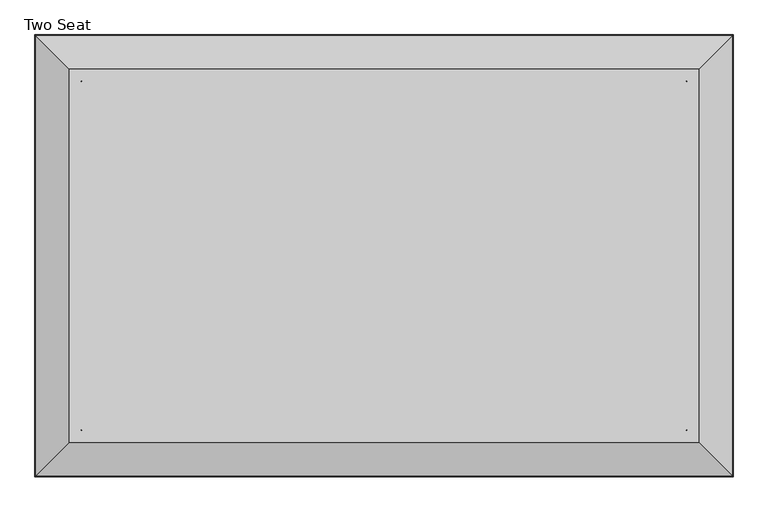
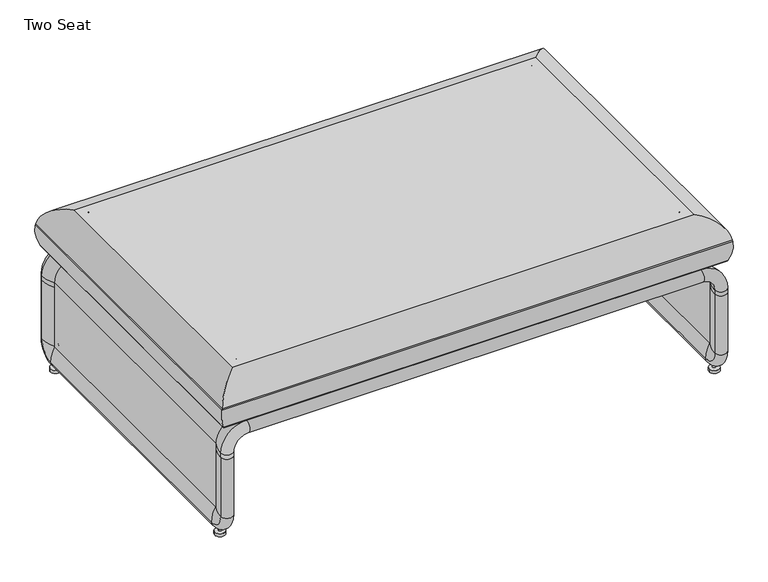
"""IFC4 building model written with IfcOpenShell, lengths in millimetres: furniture geometry, Coalesse_AM_Seating_LoungeChair_Lagunitas_Bench : Two Seat."""

from ifc_helpers import new_model, si_unit, point, frame, frame_2d, origin, origin_with_axes, place, context, project, spatial, polyline, circle_curve, ellipse_curve, trimmed, segment, composite_curve, outline, extrude, source, transform, mapped, element, save
from ifc_brep_helpers import plane_surface, cylinder_surface, revolved_surface, advanced_brep


def two_seat_4937a690(model_context):
    return source(origin(), model_context, "Body", "SolidModel", [
        advanced_brep(
        [(-224.9192902, 331.7027048, 308.3159554), (-224.9192902, 331.7027048, 423.1505158), (-225.6812902, 331.7027048, 423.1505158), (-225.6812902, 331.7027048, 308.3159554), (-1352.2104971, 331.7027048, 423.1505158), (-1352.2104971, 331.7027048, 308.3159554), (-1351.4484971, 331.7027048, 308.3159554), (-1351.4484971, 331.7027048, 423.1505158), (-147.0411935, 409.5808014, 313.8220641), (-155.4245766, 401.1974183, 308.3159554), (-1421.7052106, 401.1974183, 308.3159554), (-1430.0885937, 409.5808014, 313.8220641), (-1437.7967459, 417.2889536, 366.6638866), (-139.3330414, 417.2889536, 366.6638866), (-1437.3399768, 416.8321845, 370.0179265), (-139.7898105, 416.8321845, 370.0179265), (-1375.456588, 354.9487957, 423.1505158), (-201.6731992, 354.9487957, 423.1505158), (-1352.2104971, 330.9407048, 423.1505158), (-1352.2104971, 330.9407048, 308.3159554), (-1352.2104971, -319.1854727, 423.1505158), (-1352.2104971, -319.1854727, 308.3159554), (-1352.2104971, -318.4234727, 308.3159554), (-1352.2104971, -318.4234727, 423.1505158), (-1421.7052106, -388.6801863, 308.3159554), (-1430.0885937, -397.0635693, 313.8220641), (-1437.7967459, -404.7717215, 366.6638866), (-1437.3399768, -404.3149524, 370.0179265), (-1375.456588, -342.4315637, 423.1505158), (-1351.4484971, -319.1854727, 423.1505158), (-1351.4484971, -319.1854727, 308.3159554), (-224.9192902, -319.1854727, 423.1505158), (-224.9192902, -319.1854727, 308.3159554), (-225.6812902, -319.1854727, 308.3159554), (-225.6812902, -319.1854727, 423.1505158), (-155.4245766, -388.6801863, 308.3159554), (-147.0411935, -397.0635693, 313.8220641), (-139.3330414, -404.7717215, 366.6638866), (-139.7898105, -404.3149524, 370.0179265), (-201.6731992, -342.4315637, 423.1505158), (-224.9192902, 330.9407048, 308.3159554), (-224.9192902, 330.9407048, 423.1505158), (-224.9192902, -318.4234727, 423.1505158), (-224.9192902, -318.4234727, 308.3159554)],
        [
            (0, 1),
            (1, 2),
            (2, 3),
            (3, 0),
            (4, 5),
            (5, 6),
            (6, 7),
            (7, 4),
            (8, 9, ellipse_curve(frame((-155.4245766, 401.1974183, 317.4511134), z_axis=(-0.7071067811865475, 0.7071067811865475, 0.0), x_axis=(0.7071067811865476, 0.7071067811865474, 0.0)), 12.9190643, 9.135158)),
            (9, 10),
            (10, 11, ellipse_curve(frame((-1421.7052106, 401.1974183, 317.4511134), z_axis=(0.7071067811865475, 0.7071067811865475, 0.0), x_axis=(0.7071067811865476, -0.7071067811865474, 0.0)), 12.9190643, 9.135158)),
            (11, 8),
            (11, 12, ellipse_curve(frame((-1336.0753091, 315.5675168, 354.5191011), z_axis=(0.7071067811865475, 0.7071067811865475, 0.0), x_axis=(0.7071067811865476, -0.7071067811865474, 0.0)), 144.8775104, 102.44387)),
            (12, 13),
            (13, 8, ellipse_curve(frame((-241.0544781, 315.5675168, 354.5191011), z_axis=(-0.7071067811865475, 0.7071067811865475, 0.0), x_axis=(0.7071067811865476, 0.7071067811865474, 0.0)), 144.8775104, 102.44387)),
            (12, 14, ellipse_curve(frame((-1336.0753091, 315.5675168, 354.5191011), z_axis=(0.7071067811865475, 0.7071067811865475, 0.0), x_axis=(0.7071067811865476, -0.7071067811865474, 0.0)), 144.8775104, 102.44387)),
            (14, 15),
            (15, 13, ellipse_curve(frame((-241.0544781, 315.5675168, 354.5191011), z_axis=(-0.7071067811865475, 0.7071067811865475, 0.0), x_axis=(0.7071067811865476, 0.7071067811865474, 0.0)), 144.8775104, 102.44387)),
            (14, 16, ellipse_curve(frame((-1375.456588, 354.9487957, 360.5465101), z_axis=(0.7071067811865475, 0.7071067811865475, 0.0), x_axis=(0.7071067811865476, -0.7071067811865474, 0.0)), 88.535434, 62.6040057)),
            (16, 17),
            (17, 15, ellipse_curve(frame((-201.6731992, 354.9487957, 360.5465101), z_axis=(-0.7071067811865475, 0.7071067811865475, 0.0), x_axis=(0.7071067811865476, 0.7071067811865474, 0.0)), 88.535434, 62.6040057)),
            (4, 18),
            (18, 19),
            (19, 5),
            (20, 21),
            (21, 22),
            (22, 23),
            (23, 20),
            (10, 24),
            (24, 25, ellipse_curve(frame((-1421.7052106, -388.6801863, 317.4511134), z_axis=(-0.7071067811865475, 0.7071067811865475, 0.0), x_axis=(0.7071067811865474, 0.7071067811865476, 0.0)), 12.9190643, 9.135158)),
            (25, 11),
            (25, 26, ellipse_curve(frame((-1336.0753091, -303.0502848, 354.5191011), z_axis=(-0.7071067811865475, 0.7071067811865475, 0.0), x_axis=(0.7071067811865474, 0.7071067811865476, 0.0)), 144.8775104, 102.44387)),
            (26, 12),
            (26, 27, ellipse_curve(frame((-1336.0753091, -303.0502848, 354.5191011), z_axis=(-0.7071067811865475, 0.7071067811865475, 0.0), x_axis=(0.7071067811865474, 0.7071067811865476, 0.0)), 144.8775104, 102.44387)),
            (27, 14),
            (27, 28, ellipse_curve(frame((-1375.456588, -342.4315637, 360.5465101), z_axis=(-0.7071067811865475, 0.7071067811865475, 0.0), x_axis=(0.7071067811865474, 0.7071067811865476, 0.0)), 88.535434, 62.6040057)),
            (28, 16),
            (20, 29),
            (29, 30),
            (30, 21),
            (31, 32),
            (32, 33),
            (33, 34),
            (34, 31),
            (24, 35),
            (35, 36, ellipse_curve(frame((-155.4245766, -388.6801863, 317.4511134), z_axis=(-0.7071067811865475, -0.7071067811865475, 0.0), x_axis=(-0.7071067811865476, 0.7071067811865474, 0.0)), 12.9190643, 9.135158)),
            (36, 25),
            (36, 37, ellipse_curve(frame((-241.0544781, -303.0502848, 354.5191011), z_axis=(-0.7071067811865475, -0.7071067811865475, 0.0), x_axis=(-0.7071067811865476, 0.7071067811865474, 0.0)), 144.8775104, 102.44387)),
            (37, 26),
            (37, 38, ellipse_curve(frame((-241.0544781, -303.0502848, 354.5191011), z_axis=(-0.7071067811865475, -0.7071067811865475, 0.0), x_axis=(-0.7071067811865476, 0.7071067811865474, 0.0)), 144.8775104, 102.44387)),
            (38, 27),
            (38, 39, ellipse_curve(frame((-201.6731992, -342.4315637, 360.5465101), z_axis=(-0.7071067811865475, -0.7071067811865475, 0.0), x_axis=(-0.7071067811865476, 0.7071067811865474, 0.0)), 88.535434, 62.6040057)),
            (39, 28),
            (0, 40),
            (40, 41),
            (41, 1),
            (31, 42),
            (42, 43),
            (43, 32),
            (9, 35),
            (3, 40, circle_curve(frame((-225.6812902, 330.9407048, 308.3159554), z_axis=(0.0, 0.0, -1.0), x_axis=(1.0, 0.0, 0.0)), 0.762)),
            (19, 6, circle_curve(frame((-1351.4484971, 330.9407048, 308.3159554), z_axis=(0.0, 0.0, -1.0), x_axis=(1.0, 0.0, 0.0)), 0.762)),
            (30, 22, circle_curve(frame((-1351.4484971, -318.4234727, 308.3159554), z_axis=(0.0, 0.0, -1.0), x_axis=(1.0, 0.0, 0.0)), 0.762)),
            (43, 33, circle_curve(frame((-225.6812902, -318.4234727, 308.3159554), z_axis=(0.0, 0.0, -1.0), x_axis=(1.0, 0.0, 0.0)), 0.762)),
            (8, 36),
            (13, 37),
            (15, 38),
            (17, 39),
            (7, 18, circle_curve(frame((-1351.4484971, 330.9407048, 423.1505158), z_axis=(0.0, 0.0, 1.0), x_axis=(1.0, 0.0, 0.0)), 0.762)),
            (23, 29, circle_curve(frame((-1351.4484971, -318.4234727, 423.1505158), z_axis=(0.0, 0.0, 1.0), x_axis=(1.0, 0.0, 0.0)), 0.762)),
            (34, 42, circle_curve(frame((-225.6812902, -318.4234727, 423.1505158), z_axis=(0.0, 0.0, 1.0), x_axis=(1.0, 0.0, 0.0)), 0.762)),
            (41, 2, circle_curve(frame((-225.6812902, 330.9407048, 423.1505158), z_axis=(0.0, 0.0, 1.0), x_axis=(1.0, 0.0, 0.0)), 0.762)),
        ],
        [
            plane_surface(frame((-224.9192902, 331.7027048, 423.1505158), z_axis=(0.0, -1.0, 0.0), x_axis=(-1.0, 0.0, 0.0))),
            cylinder_surface(frame((-224.9192902, 401.1974183, 317.4511134), z_axis=(1.0, 0.0, 0.0), x_axis=(0.0, -1.0, 0.0)), 9.135158),
            cylinder_surface(frame((-224.9192902, 315.5675168, 354.5191011), z_axis=(1.0, 0.0, 0.0), x_axis=(0.0, -1.0, 0.0)), 102.44387),
            cylinder_surface(frame((-224.9192902, 354.9487957, 360.5465101), z_axis=(1.0, 0.0, 0.0), x_axis=(0.0, -1.0, 0.0)), 62.6040057),
            plane_surface(frame((-1352.2104971, 331.7027048, 423.1505158), z_axis=(1.0, 0.0, 0.0), x_axis=(0.0, -1.0, 0.0))),
            cylinder_surface(frame((-1421.7052106, 331.7027048, 317.4511134), z_axis=(0.0, 1.0, 0.0), x_axis=(1.0, 0.0, 0.0)), 9.135158),
            cylinder_surface(frame((-1336.0753091, 331.7027048, 354.5191011), z_axis=(0.0, 1.0, 0.0), x_axis=(1.0, 0.0, 0.0)), 102.44387),
            cylinder_surface(frame((-1375.456588, 331.7027048, 360.5465101), z_axis=(0.0, 1.0, 0.0), x_axis=(1.0, 0.0, 0.0)), 62.6040057),
            plane_surface(frame((-1352.2104971, -319.1854727, 423.1505158), z_axis=(0.0, 1.0, 0.0), x_axis=(1.0, 0.0, 0.0))),
            cylinder_surface(frame((-1352.2104971, -388.6801863, 317.4511134), z_axis=(-1.0, 0.0, 0.0), x_axis=(0.0, 1.0, 0.0)), 9.135158),
            cylinder_surface(frame((-1352.2104971, -303.0502848, 354.5191011), z_axis=(-1.0, 0.0, 0.0), x_axis=(0.0, 1.0, 0.0)), 102.44387),
            cylinder_surface(frame((-1352.2104971, -342.4315637, 360.5465101), z_axis=(-1.0, 0.0, 0.0), x_axis=(0.0, 1.0, 0.0)), 62.6040057),
            plane_surface(frame((-224.9192902, -319.1854727, 423.1505158), z_axis=(-1.0, 0.0, 0.0), x_axis=(0.0, 1.0, 0.0))),
            plane_surface(frame((-224.9192902, -319.1854727, 308.3159554), z_axis=(0.0, 0.0, -1.0), x_axis=(0.0, 1.0, 0.0))),
            cylinder_surface(frame((-155.4245766, -319.1854727, 317.4511134), z_axis=(0.0, -1.0, 0.0), x_axis=(-1.0, 0.0, 0.0)), 9.135158),
            cylinder_surface(frame((-241.0544781, -319.1854727, 354.5191011), z_axis=(0.0, -1.0, 0.0), x_axis=(-1.0, 0.0, 0.0)), 102.44387),
            cylinder_surface(frame((-201.6731992, -319.1854727, 360.5465101), z_axis=(0.0, -1.0, 0.0), x_axis=(-1.0, 0.0, 0.0)), 62.6040057),
            plane_surface(frame((-201.6731992, -342.4315637, 423.1505158), z_axis=(0.0, 0.0, 1.0), x_axis=(0.0, 1.0, 0.0))),
            cylinder_surface(frame((-1351.4484971, 330.9407048, 308.3159554), z_axis=(0.0, 0.0, 1.0), x_axis=(1.0, 0.0, 0.0)), 0.762),
            cylinder_surface(frame((-1351.4484971, -318.4234727, 308.3159554), z_axis=(0.0, 0.0, 1.0), x_axis=(1.0, 0.0, 0.0)), 0.762),
            cylinder_surface(frame((-225.6812902, -318.4234727, 308.3159554), z_axis=(0.0, 0.0, 1.0), x_axis=(1.0, 0.0, 0.0)), 0.762),
            cylinder_surface(frame((-225.6812902, 330.9407048, 308.3159554), z_axis=(0.0, 0.0, 1.0), x_axis=(1.0, 0.0, 0.0)), 0.762),
        ],
        [
            (0, [[1, 2, 3, 4]]),
            (0, [[5, 6, 7, 8]]),
            (1, [[9, 10, 11, 12]]),
            (2, [[-12, 13, 14, 15]]),
            (2, [[-14, 16, 17, 18]]),
            (3, [[-17, 19, 20, 21]]),
            (4, [[-5, 22, 23, 24]]),
            (4, [[25, 26, 27, 28]]),
            (5, [[-11, 29, 30, 31]]),
            (6, [[-13, -31, 32, 33]]),
            (6, [[-16, -33, 34, 35]]),
            (7, [[-19, -35, 36, 37]]),
            (8, [[-25, 38, 39, 40]]),
            (8, [[41, 42, 43, 44]]),
            (9, [[-30, 45, 46, 47]]),
            (10, [[-32, -47, 48, 49]]),
            (10, [[-34, -49, 50, 51]]),
            (11, [[-36, -51, 52, 53]]),
            (12, [[-1, 54, 55, 56]]),
            (12, [[-41, 57, 58, 59]]),
            (13, [[-10, 60, -45, -29], [-4, 61, -54], [-24, 62, -6], [-40, 63, -26], [-59, 64, -42]]),
            (14, [[-9, 65, -46, -60]]),
            (15, [[-15, 66, -48, -65]]),
            (15, [[-18, 67, -50, -66]]),
            (16, [[-21, 68, -52, -67]]),
            (17, [[-20, -37, -53, -68], [-8, 69, -22], [-28, 70, -38], [-44, 71, -57], [-56, 72, -2]]),
            (18, [[-69, -7, -62, -23]]),
            (19, [[-70, -27, -63, -39]]),
            (20, [[-71, -43, -64, -58]]),
            (21, [[-72, -55, -61, -3]]),
        ],
    ),
        extrude(outline(composite_curve([segment(trimmed(circle_curve(frame_2d((-159.8424202, -358.9512574)), 13.208), [point((-146.6344202, -358.9512574))], [point((-173.0504202, -358.9512574))], False, "CARTESIAN"), True, "CONTINUOUS"), segment(trimmed(circle_curve(frame_2d((-159.8424202, -358.9512574)), 13.208), [point((-173.0504202, -358.9512574))], [point((-146.6344202, -358.9512574))], False, "CARTESIAN"), True, "CONTINUOUS")], self_intersect=False)), origin_with_axes(), (0.0, 0.0, 1.0), 7.9249983),
        extrude(outline(composite_curve([segment(trimmed(circle_curve(frame_2d((-160.7071271, 366.0094457)), 13.208), [point((-147.4991271, 366.0094457))], [point((-173.9151271, 366.0094457))], False, "CARTESIAN"), True, "CONTINUOUS"), segment(trimmed(circle_curve(frame_2d((-160.7071271, 366.0094457)), 13.208), [point((-173.9151271, 366.0094457))], [point((-147.4991271, 366.0094457))], False, "CARTESIAN"), True, "CONTINUOUS")], self_intersect=False)), origin_with_axes(), (0.0, 0.0, 1.0), 7.9249983),
        extrude(outline(composite_curve([segment(trimmed(circle_curve(frame_2d((-159.9727332, 365.9413212)), 3.8556407), [point((-156.1170925, 365.9413212))], [point((-163.828374, 365.9413212))], False, "CARTESIAN"), True, "CONTINUOUS"), segment(trimmed(circle_curve(frame_2d((-159.9727332, 365.9413212)), 3.8556407), [point((-163.828374, 365.9413212))], [point((-156.1170925, 365.9413212))], False, "CARTESIAN"), True, "CONTINUOUS")], self_intersect=False)), frame((0.0, 0.0, 7.9249983), z_axis=(0.0, 0.0, 1.0), x_axis=(1.0, 0.0, 0.0)), (0.0, 0.0, 1.0), 41.9053919),
        extrude(outline(composite_curve([segment(trimmed(circle_curve(frame_2d((-159.9727332, -357.9586788)), 3.8556407), [point((-156.1170925, -357.9586788))], [point((-163.828374, -357.9586788))], False, "CARTESIAN"), True, "CONTINUOUS"), segment(trimmed(circle_curve(frame_2d((-159.9727332, -357.9586788)), 3.8556407), [point((-163.828374, -357.9586788))], [point((-156.1170925, -357.9586788))], False, "CARTESIAN"), True, "CONTINUOUS")], self_intersect=False)), frame((0.0, 0.0, 7.9249983), z_axis=(0.0, 0.0, 1.0), x_axis=(1.0, 0.0, 0.0)), (0.0, 0.0, 1.0), 41.9053919),
        advanced_brep(
        [(-1364.817987, 361.2223108, 294.5571477), (-1364.817987, -349.3993584, 294.5571477), (-210.8270072, -349.3993584, 294.5571477), (-210.8270072, 361.2223108, 294.5571477), (-210.8270072, 399.3471866, 304.6510848), (-1364.817987, 399.3471866, 304.6510848), (-210.8270072, 399.3471866, 273.9829819), (-1364.817987, 399.3471866, 273.9829819), (-210.8270072, 361.2223108, 284.076919), (-1364.817987, 361.2223108, 284.076919), (-210.8270072, -349.3993584, 284.076919), (-1364.817987, -349.3993584, 284.076919), (-210.8270072, -387.5242343, 273.9829819), (-1364.817987, -387.5242343, 273.9829819), (-210.8270072, -387.5242343, 304.6510848), (-1364.817987, -387.5242343, 304.6510848), (-1421.0182157, -349.3993584, 227.5269902), (-1421.0182157, -349.3993584, 238.356919), (-1421.0182157, 361.2223108, 238.356919), (-1421.0182157, 361.2223108, 227.5269902), (-1421.0182157, 361.2223108, 68.7769902), (-1421.0182157, 359.9523108, 67.5069902), (-1421.0182157, -348.1293584, 67.5069902), (-1421.0182157, -349.3993584, 68.7769902), (-1431.1121528, 399.3471866, 238.356919), (-1431.1121528, 399.3471866, 227.5269902), (-1400.4440499, 399.3471866, 238.356919), (-1400.4440499, 399.3471866, 227.5269902), (-1410.537987, 361.2223108, 238.356919), (-1410.537987, 361.2223108, 227.5269902), (-1410.537987, -349.3993584, 238.356919), (-1410.537987, -349.3993584, 227.5269902), (-1410.537987, -349.3993584, 68.7769902), (-1410.537987, -348.1293832, 67.5069902), (-1410.537987, 359.9523108, 67.5069902), (-1410.537987, 361.2223108, 68.7769646), (-1400.4440499, -387.5242343, 238.356919), (-1400.4440499, -387.5242343, 227.5269902), (-1431.1121528, -387.5242343, 238.356919), (-1431.1121528, -387.5242343, 227.5269902), (-1400.4440499, -387.5242343, 68.7769902), (-1431.1121528, -387.5242343, 68.7769902), (-1400.4440499, -348.1293584, 29.3821143), (-1431.1121528, -348.1293584, 29.3821143), (-1400.4440499, 359.9523108, 29.3821143), (-1431.1121528, 359.9523108, 29.3821143), (-1400.4440499, 399.3471866, 68.7769902), (-1431.1121528, 399.3471866, 68.7769902), (-154.6267784, -349.3993584, 238.356919), (-154.6267784, 361.2223108, 238.356919), (-144.5328414, 399.3471866, 238.356919), (-175.2009443, 399.3471866, 238.356919), (-165.1070072, 361.2223108, 238.356919), (-165.1070072, -349.3993584, 238.356919), (-175.2009443, -387.5242343, 238.356919), (-144.5328414, -387.5242343, 238.356919), (-154.6267784, -349.3993584, 227.5269902), (-154.6267784, -349.3993584, 68.7769902), (-154.6267784, -348.1293584, 67.5069902), (-154.6267784, 359.9523108, 67.5069902), (-154.6267784, 361.2223108, 68.7769902), (-154.6267784, 361.2223108, 227.5269902), (-144.5328414, 399.3471866, 227.5269902), (-175.2009443, 399.3471866, 227.5269902), (-165.1070072, 361.2223108, 227.5269902), (-165.1070072, 361.2223108, 68.7769902), (-165.1070072, 359.9523108, 67.5069902), (-165.1070072, -348.1293584, 67.5069902), (-165.1070072, -349.3993584, 68.7769902), (-165.1070072, -349.3993584, 227.5269902), (-175.2009443, -387.5242343, 227.5269902), (-144.5328414, -387.5242343, 227.5269902), (-175.2009443, -387.5242343, 68.7769902), (-144.5328414, -387.5242343, 68.7769902), (-175.2009443, -348.1293584, 29.3821143), (-144.5328414, -348.1293584, 29.3821143), (-175.2009443, 359.9523108, 29.3821143), (-144.5328414, 359.9523108, 29.3821143), (-175.2009443, 399.3471866, 68.7769902), (-144.5328414, 399.3471866, 68.7769902)],
        [
            (0, 1),
            (1, 2),
            (2, 3),
            (3, 0),
            (3, 4, circle_curve(frame((-210.8270072, 399.022058, 228.8331589), z_axis=(-1.0, 0.0, 0.0), x_axis=(0.0, 0.0, 1.0)), 75.818623)),
            (4, 5),
            (5, 0, circle_curve(frame((-1364.817987, 399.022058, 228.8331589), z_axis=(1.0, 0.0, 0.0), x_axis=(0.0, 0.0, 1.0)), 75.818623)),
            (4, 6, circle_curve(frame((-210.8270072, 399.2814298, 289.3170334), z_axis=(-1.0, 0.0, 0.0), x_axis=(0.0, 0.0, 1.0)), 15.3341924)),
            (6, 7),
            (7, 5, circle_curve(frame((-1364.817987, 399.2814298, 289.3170334), z_axis=(1.0, 0.0, 0.0), x_axis=(0.0, 0.0, 1.0)), 15.3341924)),
            (6, 8, circle_curve(frame((-210.8270072, 399.022058, 349.8009078), z_axis=(-1.0, 0.0, 0.0), x_axis=(0.0, 0.0, 1.0)), 75.818623)),
            (8, 9),
            (9, 7, circle_curve(frame((-1364.817987, 399.022058, 349.8009078), z_axis=(1.0, 0.0, 0.0), x_axis=(0.0, 0.0, 1.0)), 75.818623)),
            (8, 10),
            (10, 11),
            (11, 9),
            (10, 12, circle_curve(frame((-210.8270072, -387.1991056, 349.8009078), z_axis=(-1.0, 0.0, 0.0), x_axis=(0.0, 0.0, 1.0)), 75.818623)),
            (12, 13),
            (13, 11, circle_curve(frame((-1364.817987, -387.1991056, 349.8009078), z_axis=(1.0, 0.0, 0.0), x_axis=(0.0, 0.0, 1.0)), 75.818623)),
            (12, 14, circle_curve(frame((-210.8270072, -387.4584775, 289.3170334), z_axis=(-1.0, 0.0, 0.0), x_axis=(0.0, 0.0, 1.0)), 15.3341924)),
            (14, 15),
            (15, 13, circle_curve(frame((-1364.817987, -387.4584775, 289.3170334), z_axis=(1.0, 0.0, 0.0), x_axis=(0.0, 0.0, 1.0)), 15.3341924)),
            (1, 15, circle_curve(frame((-1364.817987, -387.1991056, 228.8331589), z_axis=(1.0, 0.0, 0.0), x_axis=(0.0, 0.0, 1.0)), 75.818623)),
            (14, 2, circle_curve(frame((-210.8270072, -387.1991056, 228.8331589), z_axis=(-1.0, 0.0, 0.0), x_axis=(0.0, 0.0, 1.0)), 75.818623)),
            (16, 17),
            (17, 18),
            (18, 19),
            (19, 20),
            (20, 21, circle_curve(frame((-1421.0182157, 359.9523108, 68.7769902), z_axis=(-1.0, 0.0, 0.0), x_axis=(0.0, 0.0, -1.0)), 1.27)),
            (21, 22),
            (22, 23, circle_curve(frame((-1421.0182157, -348.1293584, 68.7769902), z_axis=(-1.0, 0.0, 0.0), x_axis=(0.0, -1.0, 0.0)), 1.27)),
            (23, 16),
            (18, 24, circle_curve(frame((-1355.2942269, 399.022058, 238.356919), z_axis=(0.0, 0.0, -1.0), x_axis=(-1.0, 0.0, 0.0)), 75.818623)),
            (24, 25),
            (25, 19, circle_curve(frame((-1355.2942269, 399.022058, 227.5269902), z_axis=(0.0, 0.0, 1.0), x_axis=(-1.0, 0.0, 0.0)), 75.818623)),
            (24, 26, circle_curve(frame((-1415.7781014, 399.2814298, 238.356919), z_axis=(0.0, 0.0, -1.0), x_axis=(-1.0, 0.0, 0.0)), 15.3341924)),
            (26, 27),
            (27, 25, circle_curve(frame((-1415.7781014, 399.2814298, 227.5269902), z_axis=(0.0, 0.0, 1.0), x_axis=(-1.0, 0.0, 0.0)), 15.3341924)),
            (26, 28, circle_curve(frame((-1476.2619758, 399.022058, 238.356919), z_axis=(0.0, 0.0, -1.0), x_axis=(-1.0, 0.0, 0.0)), 75.818623)),
            (28, 29),
            (29, 27, circle_curve(frame((-1476.2619758, 399.022058, 227.5269902), z_axis=(0.0, 0.0, 1.0), x_axis=(-1.0, 0.0, 0.0)), 75.818623)),
            (28, 30),
            (30, 31),
            (31, 32),
            (32, 33, circle_curve(frame((-1410.537987, -348.1293584, 68.7769902), z_axis=(1.0, 0.0, 0.0), x_axis=(0.0, -1.0, 0.0)), 1.27)),
            (33, 34),
            (34, 35, circle_curve(frame((-1410.537987, 359.9523108, 68.7769902), z_axis=(1.0, 0.0, 0.0), x_axis=(0.0, 0.0, -1.0)), 1.27)),
            (35, 29),
            (30, 36, circle_curve(frame((-1476.2619758, -387.1991056, 238.356919), z_axis=(0.0, 0.0, -1.0), x_axis=(-1.0, 0.0, 0.0)), 75.818623)),
            (36, 37),
            (37, 31, circle_curve(frame((-1476.2619758, -387.1991056, 227.5269902), z_axis=(0.0, 0.0, 1.0), x_axis=(-1.0, 0.0, 0.0)), 75.818623)),
            (36, 38, circle_curve(frame((-1415.7781014, -387.4584775, 238.356919), z_axis=(0.0, 0.0, -1.0), x_axis=(-1.0, 0.0, 0.0)), 15.3341924)),
            (38, 39),
            (39, 37, circle_curve(frame((-1415.7781014, -387.4584775, 227.5269902), z_axis=(0.0, 0.0, 1.0), x_axis=(-1.0, 0.0, 0.0)), 15.3341924)),
            (16, 39, circle_curve(frame((-1355.2942269, -387.1991056, 227.5269902), z_axis=(0.0, 0.0, 1.0), x_axis=(-1.0, 0.0, 0.0)), 75.818623)),
            (38, 17, circle_curve(frame((-1355.2942269, -387.1991056, 238.356919), z_axis=(0.0, 0.0, -1.0), x_axis=(-1.0, 0.0, 0.0)), 75.818623)),
            (0, 18, circle_curve(frame((-1364.817987, 361.2223108, 238.356919), z_axis=(0.0, -1.0, 0.0), x_axis=(-1.0, 0.0, 0.0)), 56.2002288)),
            (17, 1, circle_curve(frame((-1364.817987, -349.3993584, 238.356919), z_axis=(0.0, 1.0, 0.0), x_axis=(-1.0, 0.0, 0.0)), 56.2002288)),
            (5, 24, circle_curve(frame((-1364.817987, 399.3471866, 238.356919), z_axis=(0.0, -1.0, 0.0), x_axis=(-1.0, 0.0, 0.0)), 66.2941658)),
            (7, 26, circle_curve(frame((-1364.817987, 399.3471866, 238.356919), z_axis=(0.0, -1.0, 0.0), x_axis=(-1.0, 0.0, 0.0)), 35.6260629)),
            (9, 28, circle_curve(frame((-1364.817987, 361.2223108, 238.356919), z_axis=(0.0, -1.0, 0.0), x_axis=(-1.0, 0.0, 0.0)), 45.72)),
            (11, 30, circle_curve(frame((-1364.817987, -349.3993584, 238.356919), z_axis=(0.0, -1.0, 0.0), x_axis=(-1.0, 0.0, 0.0)), 45.72)),
            (13, 36, circle_curve(frame((-1364.817987, -387.5242343, 238.356919), z_axis=(0.0, -1.0, 0.0), x_axis=(-1.0, 0.0, 0.0)), 35.6260629)),
            (15, 38, circle_curve(frame((-1364.817987, -387.5242343, 238.356919), z_axis=(0.0, -1.0, 0.0), x_axis=(-1.0, 0.0, 0.0)), 66.2941658)),
            (37, 40),
            (40, 32, circle_curve(frame((-1476.2619758, -387.1991056, 68.7769902), z_axis=(0.0, 0.0, 1.0), x_axis=(1.0, 0.0, 0.0)), 75.818623)),
            (23, 41, circle_curve(frame((-1355.2942269, -387.1991056, 68.7769902), z_axis=(0.0, 0.0, 1.0), x_axis=(1.0, 0.0, 0.0)), 75.818623)),
            (41, 39),
            (41, 40, circle_curve(frame((-1415.7781014, -387.4584775, 68.7769902), z_axis=(0.0, 0.0, 1.0), x_axis=(1.0, 0.0, 0.0)), 15.3341924)),
            (40, 42, circle_curve(frame((-1400.4440499, -348.1293584, 68.7769902), z_axis=(1.0, 0.0, 0.0), x_axis=(0.0, -1.0, 0.0)), 39.3948758)),
            (42, 33, circle_curve(frame((-1476.2619758, -348.1293584, 29.707243), z_axis=(0.0, -1.0, 0.0), x_axis=(1.0, 0.0, 0.0)), 75.818623)),
            (22, 43, circle_curve(frame((-1355.2942269, -348.1293584, 29.707243), z_axis=(0.0, -1.0, 0.0), x_axis=(1.0, 0.0, 0.0)), 75.818623)),
            (43, 41, circle_curve(frame((-1431.1121528, -348.1293584, 68.7769902), z_axis=(-1.0, 0.0, 0.0), x_axis=(0.0, -1.0, 0.0)), 39.3948758)),
            (43, 42, circle_curve(frame((-1415.7781014, -348.1293584, 29.4478711), z_axis=(0.0, -1.0, 0.0), x_axis=(1.0, 0.0, 0.0)), 15.3341924)),
            (42, 44),
            (44, 34, circle_curve(frame((-1476.2619758, 359.9523108, 29.707243), z_axis=(0.0, -1.0, 0.0), x_axis=(1.0, 0.0, 0.0)), 75.818623)),
            (21, 45, circle_curve(frame((-1355.2942269, 359.9523108, 29.707243), z_axis=(0.0, -1.0, 0.0), x_axis=(1.0, 0.0, 0.0)), 75.818623)),
            (45, 43),
            (45, 44, circle_curve(frame((-1415.7781014, 359.9523108, 29.4478711), z_axis=(0.0, -1.0, 0.0), x_axis=(1.0, 0.0, 0.0)), 15.3341924)),
            (44, 46, circle_curve(frame((-1400.4440499, 359.9523108, 68.7769902), z_axis=(1.0, 0.0, 0.0), x_axis=(0.0, 0.0, -1.0)), 39.3948758)),
            (46, 35, circle_curve(frame((-1476.2619758, 399.022058, 68.7769902), z_axis=(0.0, 0.0, -1.0), x_axis=(1.0, 0.0, 0.0)), 75.818623)),
            (20, 47, circle_curve(frame((-1355.2942269, 399.022058, 68.7769902), z_axis=(0.0, 0.0, -1.0), x_axis=(1.0, 0.0, 0.0)), 75.818623)),
            (47, 45, circle_curve(frame((-1431.1121528, 359.9523108, 68.7769902), z_axis=(-1.0, 0.0, 0.0), x_axis=(0.0, 0.0, -1.0)), 39.3948758)),
            (47, 46, circle_curve(frame((-1415.7781014, 399.2814298, 68.7769902), z_axis=(0.0, 0.0, -1.0), x_axis=(1.0, 0.0, 0.0)), 15.3341924)),
            (46, 27),
            (25, 47),
            (2, 48, circle_curve(frame((-210.8270072, -349.3993584, 238.356919), z_axis=(0.0, 1.0, 0.0), x_axis=(0.0, 0.0, 1.0)), 56.2002288)),
            (48, 49),
            (49, 3, circle_curve(frame((-210.8270072, 361.2223108, 238.356919), z_axis=(0.0, -1.0, 0.0), x_axis=(0.0, 0.0, 1.0)), 56.2002288)),
            (49, 50, circle_curve(frame((-220.3507672, 399.022058, 238.356919), z_axis=(0.0, 0.0, 1.0), x_axis=(1.0, 0.0, 0.0)), 75.818623)),
            (50, 4, circle_curve(frame((-210.8270072, 399.3471866, 238.356919), z_axis=(0.0, -1.0, 0.0), x_axis=(0.0, 0.0, 1.0)), 66.2941658)),
            (50, 51, circle_curve(frame((-159.8668928, 399.2814298, 238.356919), z_axis=(0.0, 0.0, 1.0), x_axis=(1.0, 0.0, 0.0)), 15.3341924)),
            (51, 6, circle_curve(frame((-210.8270072, 399.3471866, 238.356919), z_axis=(0.0, -1.0, 0.0), x_axis=(0.0, 0.0, 1.0)), 35.6260629)),
            (51, 52, circle_curve(frame((-99.3830184, 399.022058, 238.356919), z_axis=(0.0, 0.0, 1.0), x_axis=(1.0, 0.0, 0.0)), 75.818623)),
            (52, 8, circle_curve(frame((-210.8270072, 361.2223108, 238.356919), z_axis=(0.0, -1.0, 0.0), x_axis=(0.0, 0.0, 1.0)), 45.72)),
            (52, 53),
            (53, 10, circle_curve(frame((-210.8270072, -349.3993584, 238.356919), z_axis=(0.0, -1.0, 0.0), x_axis=(0.0, 0.0, 1.0)), 45.72)),
            (53, 54, circle_curve(frame((-99.3830184, -387.1991056, 238.356919), z_axis=(0.0, 0.0, 1.0), x_axis=(1.0, 0.0, 0.0)), 75.818623)),
            (54, 12, circle_curve(frame((-210.8270072, -387.5242343, 238.356919), z_axis=(0.0, -1.0, 0.0), x_axis=(0.0, 0.0, 1.0)), 35.6260629)),
            (54, 55, circle_curve(frame((-159.8668928, -387.4584775, 238.356919), z_axis=(0.0, 0.0, 1.0), x_axis=(1.0, 0.0, 0.0)), 15.3341924)),
            (55, 14, circle_curve(frame((-210.8270072, -387.5242343, 238.356919), z_axis=(0.0, -1.0, 0.0), x_axis=(0.0, 0.0, 1.0)), 66.2941658)),
            (55, 48, circle_curve(frame((-220.3507672, -387.1991056, 238.356919), z_axis=(0.0, 0.0, 1.0), x_axis=(1.0, 0.0, 0.0)), 75.818623)),
            (48, 56),
            (56, 57),
            (57, 58, circle_curve(frame((-154.6267784, -348.1293584, 68.7769902), z_axis=(1.0, 0.0, 0.0), x_axis=(0.0, -1.0, 0.0)), 1.27)),
            (58, 59),
            (59, 60, circle_curve(frame((-154.6267784, 359.9523108, 68.7769902), z_axis=(1.0, 0.0, 0.0), x_axis=(0.0, 0.0, -1.0)), 1.27)),
            (60, 61),
            (61, 49),
            (61, 62, circle_curve(frame((-220.3507672, 399.022058, 227.5269902), z_axis=(0.0, 0.0, 1.0), x_axis=(1.0, 0.0, 0.0)), 75.818623)),
            (62, 50),
            (62, 63, circle_curve(frame((-159.8668928, 399.2814298, 227.5269902), z_axis=(0.0, 0.0, 1.0), x_axis=(1.0, 0.0, 0.0)), 15.3341924)),
            (63, 51),
            (63, 64, circle_curve(frame((-99.3830184, 399.022058, 227.5269902), z_axis=(0.0, 0.0, 1.0), x_axis=(1.0, 0.0, 0.0)), 75.818623)),
            (64, 52),
            (64, 65),
            (65, 66, circle_curve(frame((-165.1070072, 359.9523108, 68.7769902), z_axis=(-1.0, 0.0, 0.0), x_axis=(0.0, 0.0, -1.0)), 1.27)),
            (66, 67),
            (67, 68, circle_curve(frame((-165.1070072, -348.1293584, 68.7769902), z_axis=(-1.0, 0.0, 0.0), x_axis=(0.0, -1.0, 0.0)), 1.27)),
            (68, 69),
            (69, 53),
            (69, 70, circle_curve(frame((-99.3830184, -387.1991056, 227.5269902), z_axis=(0.0, 0.0, 1.0), x_axis=(1.0, 0.0, 0.0)), 75.818623)),
            (70, 54),
            (70, 71, circle_curve(frame((-159.8668928, -387.4584775, 227.5269902), z_axis=(0.0, 0.0, 1.0), x_axis=(1.0, 0.0, 0.0)), 15.3341924)),
            (71, 55),
            (71, 56, circle_curve(frame((-220.3507672, -387.1991056, 227.5269902), z_axis=(0.0, 0.0, 1.0), x_axis=(1.0, 0.0, 0.0)), 75.818623)),
            (68, 72, circle_curve(frame((-99.3830184, -387.1991056, 68.7769902), z_axis=(0.0, 0.0, 1.0), x_axis=(-1.0, 0.0, 0.0)), 75.818623)),
            (72, 70),
            (71, 73),
            (73, 57, circle_curve(frame((-220.3507672, -387.1991056, 68.7769902), z_axis=(0.0, 0.0, 1.0), x_axis=(-1.0, 0.0, 0.0)), 75.818623)),
            (72, 73, circle_curve(frame((-159.8668928, -387.4584775, 68.7769902), z_axis=(0.0, 0.0, 1.0), x_axis=(-1.0, 0.0, 0.0)), 15.3341924)),
            (67, 74, circle_curve(frame((-99.3830184, -348.1293584, 29.707243), z_axis=(0.0, -1.0, 0.0), x_axis=(-1.0, 0.0, 0.0)), 75.818623)),
            (74, 72, circle_curve(frame((-175.2009443, -348.1293584, 68.7769902), z_axis=(-1.0, 0.0, 0.0), x_axis=(0.0, -1.0, 0.0)), 39.3948758)),
            (73, 75, circle_curve(frame((-144.5328414, -348.1293584, 68.7769902), z_axis=(1.0, 0.0, 0.0), x_axis=(0.0, -1.0, 0.0)), 39.3948758)),
            (75, 58, circle_curve(frame((-220.3507672, -348.1293584, 29.707243), z_axis=(0.0, -1.0, 0.0), x_axis=(-1.0, 0.0, 0.0)), 75.818623)),
            (74, 75, circle_curve(frame((-159.8668928, -348.1293584, 29.4478711), z_axis=(0.0, -1.0, 0.0), x_axis=(-1.0, 0.0, 0.0)), 15.3341924)),
            (66, 76, circle_curve(frame((-99.3830184, 359.9523108, 29.707243), z_axis=(0.0, -1.0, 0.0), x_axis=(-1.0, 0.0, 0.0)), 75.818623)),
            (76, 74),
            (75, 77),
            (77, 59, circle_curve(frame((-220.3507672, 359.9523108, 29.707243), z_axis=(0.0, -1.0, 0.0), x_axis=(-1.0, 0.0, 0.0)), 75.818623)),
            (76, 77, circle_curve(frame((-159.8668928, 359.9523108, 29.4478711), z_axis=(0.0, -1.0, 0.0), x_axis=(-1.0, 0.0, 0.0)), 15.3341924)),
            (65, 78, circle_curve(frame((-99.3830184, 399.022058, 68.7769902), z_axis=(0.0, 0.0, -1.0), x_axis=(-1.0, 0.0, 0.0)), 75.818623)),
            (78, 76, circle_curve(frame((-175.2009443, 359.9523108, 68.7769902), z_axis=(-1.0, 0.0, 0.0), x_axis=(0.0, 0.0, -1.0)), 39.3948758)),
            (77, 79, circle_curve(frame((-144.5328414, 359.9523108, 68.7769902), z_axis=(1.0, 0.0, 0.0), x_axis=(0.0, 0.0, -1.0)), 39.3948758)),
            (79, 60, circle_curve(frame((-220.3507672, 399.022058, 68.7769902), z_axis=(0.0, 0.0, -1.0), x_axis=(-1.0, 0.0, 0.0)), 75.818623)),
            (78, 79, circle_curve(frame((-159.8668928, 399.2814298, 68.7769902), z_axis=(0.0, 0.0, -1.0), x_axis=(-1.0, 0.0, 0.0)), 15.3341924)),
            (63, 78),
            (79, 62),
        ],
        [
            plane_surface(frame((-1364.817987, -349.3993584, 294.5571477), z_axis=(0.0, 0.0, 1.0), x_axis=(1.0, 0.0, 0.0))),
            cylinder_surface(frame((-1364.817987, 399.022058, 228.8331589), z_axis=(-1.0, 0.0, 0.0), x_axis=(0.0, 0.0, 1.0)), 75.818623),
            cylinder_surface(frame((-1364.817987, 399.2814298, 289.3170334), z_axis=(-1.0, 0.0, 0.0), x_axis=(0.0, 0.0, 1.0)), 15.3341924),
            cylinder_surface(frame((-1364.817987, 399.022058, 349.8009078), z_axis=(-1.0, 0.0, 0.0), x_axis=(0.0, 0.0, 1.0)), 75.818623),
            plane_surface(frame((-1364.817987, 361.2223108, 284.076919), z_axis=(0.0, 0.0, -1.0), x_axis=(1.0, 0.0, 0.0))),
            cylinder_surface(frame((-1364.817987, -387.1991056, 349.8009078), z_axis=(-1.0, 0.0, 0.0), x_axis=(0.0, 0.0, 1.0)), 75.818623),
            cylinder_surface(frame((-1364.817987, -387.4584775, 289.3170334), z_axis=(-1.0, 0.0, 0.0), x_axis=(0.0, 0.0, 1.0)), 15.3341924),
            cylinder_surface(frame((-1364.817987, -387.1991056, 228.8331589), z_axis=(-1.0, 0.0, 0.0), x_axis=(0.0, 0.0, 1.0)), 75.818623),
            plane_surface(frame((-1421.0182157, -349.3993584, 227.5269902), z_axis=(-1.0, 0.0, 0.0), x_axis=(0.0, 0.0, 1.0))),
            cylinder_surface(frame((-1355.2942269, 399.022058, 227.5269902), z_axis=(0.0, 0.0, -1.0), x_axis=(-1.0, 0.0, 0.0)), 75.818623),
            cylinder_surface(frame((-1415.7781014, 399.2814298, 227.5269902), z_axis=(0.0, 0.0, -1.0), x_axis=(-1.0, 0.0, 0.0)), 15.3341924),
            cylinder_surface(frame((-1476.2619758, 399.022058, 227.5269902), z_axis=(0.0, 0.0, -1.0), x_axis=(-1.0, 0.0, 0.0)), 75.818623),
            plane_surface(frame((-1410.537987, 361.2223108, 227.5269902), z_axis=(1.0, 0.0, 0.0), x_axis=(0.0, 0.0, 1.0))),
            cylinder_surface(frame((-1476.2619758, -387.1991056, 227.5269902), z_axis=(0.0, 0.0, -1.0), x_axis=(-1.0, 0.0, 0.0)), 75.818623),
            cylinder_surface(frame((-1415.7781014, -387.4584775, 227.5269902), z_axis=(0.0, 0.0, -1.0), x_axis=(-1.0, 0.0, 0.0)), 15.3341924),
            cylinder_surface(frame((-1355.2942269, -387.1991056, 227.5269902), z_axis=(0.0, 0.0, -1.0), x_axis=(-1.0, 0.0, 0.0)), 75.818623),
            cylinder_surface(frame((-1364.817987, 450.8524852, 238.356919), z_axis=(0.0, 1.0, 0.0), x_axis=(-1.0, 0.0, 0.0)), 56.2002288),
            revolved_surface(trimmed(ellipse_curve(frame((-1355.2942269, 399.022058, 238.356919), z_axis=(0.0, 0.0, -1.0), x_axis=(-1.0, 0.0, 0.0)), 75.818623, 75.818623), [point((-1421.0182157, 361.2223108, 238.356919))], [point((-1431.1121528, 399.3471866, 238.356919))], True, "CARTESIAN"), (-1364.817987, 450.8524852, 238.356919), (0.0, 1.0, 0.0)),
            revolved_surface(trimmed(ellipse_curve(frame((-1415.7781014, 399.2814298, 238.356919), z_axis=(0.0, 0.0, -1.0), x_axis=(-1.0, 0.0, 0.0)), 15.3341924, 15.3341924), [point((-1431.1121528, 399.3471866, 238.356919))], [point((-1400.4440499, 399.3471866, 238.356919))], True, "CARTESIAN"), (-1364.817987, 450.8524852, 238.356919), (0.0, 1.0, 0.0)),
            revolved_surface(trimmed(ellipse_curve(frame((-1476.2619758, 399.022058, 238.356919), z_axis=(0.0, 0.0, -1.0), x_axis=(-1.0, 0.0, 0.0)), 75.818623, 75.818623), [point((-1400.4440499, 399.3471866, 238.356919))], [point((-1410.537987, 361.2223108, 238.356919))], True, "CARTESIAN"), (-1364.817987, 450.8524852, 238.356919), (0.0, 1.0, 0.0)),
            revolved_surface(polyline([(-1410.537987, 361.2223108, 238.356919), (-1410.537987, -349.39935840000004, 238.356919)]), (-1364.817987, 450.8524852, 238.356919), (0.0, 1.0, 0.0)),
            revolved_surface(trimmed(ellipse_curve(frame((-1476.2619758, -387.1991056, 238.356919), z_axis=(0.0, 0.0, -1.0), x_axis=(-1.0, 0.0, 0.0)), 75.818623, 75.818623), [point((-1410.537987, -349.3993584, 238.356919))], [point((-1400.4440499, -387.5242343, 238.356919))], True, "CARTESIAN"), (-1364.817987, 450.8524852, 238.356919), (0.0, 1.0, 0.0)),
            revolved_surface(trimmed(ellipse_curve(frame((-1415.7781014, -387.4584775, 238.356919), z_axis=(0.0, 0.0, -1.0), x_axis=(-1.0, 0.0, 0.0)), 15.3341924, 15.3341924), [point((-1400.4440499, -387.5242343, 238.356919))], [point((-1431.1121528, -387.5242343, 238.356919))], True, "CARTESIAN"), (-1364.817987, 450.8524852, 238.356919), (0.0, 1.0, 0.0)),
            revolved_surface(trimmed(ellipse_curve(frame((-1355.2942269, -387.1991056, 238.356919), z_axis=(0.0, 0.0, -1.0), x_axis=(-1.0, 0.0, 0.0)), 75.818623, 75.818623), [point((-1431.1121528, -387.5242343, 238.356919))], [point((-1421.0182157, -349.3993584, 238.356919))], True, "CARTESIAN"), (-1364.817987, 450.8524852, 238.356919), (0.0, 1.0, 0.0)),
            cylinder_surface(frame((-1476.2619758, -387.1991056, 227.5269902), z_axis=(0.0, 0.0, 1.0), x_axis=(1.0, 0.0, 0.0)), 75.818623),
            cylinder_surface(frame((-1355.2942269, -387.1991056, 227.5269902), z_axis=(0.0, 0.0, 1.0), x_axis=(1.0, 0.0, 0.0)), 75.818623),
            cylinder_surface(frame((-1415.7781014, -387.4584775, 227.5269902), z_axis=(0.0, 0.0, 1.0), x_axis=(1.0, 0.0, 0.0)), 15.3341924),
            revolved_surface(trimmed(ellipse_curve(frame((-1476.2619758, -387.1991056, 68.7769902), z_axis=(0.0, 0.0, 1.0), x_axis=(1.0, 0.0, 0.0)), 75.818623, 75.818623), [point((-1400.4440499, -387.5242343, 68.7769902))], [point((-1410.537987, -349.3993584, 68.7769902))], True, "CARTESIAN"), (-1437.9354971, -348.1293584, 68.7769902), (1.0, 0.0, 0.0)),
            revolved_surface(trimmed(ellipse_curve(frame((-1355.2942269, -387.1991056, 68.7769902), z_axis=(0.0, 0.0, 1.0), x_axis=(1.0, 0.0, 0.0)), 75.818623, 75.818623), [point((-1421.0182157, -349.3993584, 68.7769902))], [point((-1431.1121528, -387.5242343, 68.7769902))], True, "CARTESIAN"), (-1437.9354971, -348.1293584, 68.7769902), (1.0, 0.0, 0.0)),
            revolved_surface(trimmed(ellipse_curve(frame((-1415.7781014, -387.4584775, 68.7769902), z_axis=(0.0, 0.0, 1.0), x_axis=(1.0, 0.0, 0.0)), 15.3341924, 15.3341924), [point((-1431.1121528, -387.5242343, 68.7769902))], [point((-1400.4440499, -387.5242343, 68.7769902))], True, "CARTESIAN"), (-1437.9354971, -348.1293584, 68.7769902), (1.0, 0.0, 0.0)),
            cylinder_surface(frame((-1476.2619758, -348.1293584, 29.707243), z_axis=(0.0, -1.0, 0.0), x_axis=(1.0, 0.0, 0.0)), 75.818623),
            cylinder_surface(frame((-1355.2942269, -348.1293584, 29.707243), z_axis=(0.0, -1.0, 0.0), x_axis=(1.0, 0.0, 0.0)), 75.818623),
            cylinder_surface(frame((-1415.7781014, -348.1293584, 29.4478711), z_axis=(0.0, -1.0, 0.0), x_axis=(1.0, 0.0, 0.0)), 15.3341924),
            revolved_surface(trimmed(ellipse_curve(frame((-1476.2619758, 359.9523108, 29.707243), z_axis=(0.0, -1.0, 0.0), x_axis=(1.0, 0.0, 0.0)), 75.818623, 75.818623), [point((-1400.4440499, 359.9523108, 29.3821143))], [point((-1410.537987, 359.9523108, 67.5069902))], True, "CARTESIAN"), (-1437.9354971, 359.9523108, 68.7769902), (1.0, 0.0, 0.0)),
            revolved_surface(trimmed(ellipse_curve(frame((-1355.2942269, 359.9523108, 29.707243), z_axis=(0.0, -1.0, 0.0), x_axis=(1.0, 0.0, 0.0)), 75.818623, 75.818623), [point((-1421.0182157, 359.9523108, 67.5069902))], [point((-1431.1121528, 359.9523108, 29.3821143))], True, "CARTESIAN"), (-1437.9354971, 359.9523108, 68.7769902), (1.0, 0.0, 0.0)),
            revolved_surface(trimmed(ellipse_curve(frame((-1415.7781014, 359.9523108, 29.4478711), z_axis=(0.0, -1.0, 0.0), x_axis=(1.0, 0.0, 0.0)), 15.3341924, 15.3341924), [point((-1431.1121528, 359.9523108, 29.3821143))], [point((-1400.4440499, 359.9523108, 29.3821143))], True, "CARTESIAN"), (-1437.9354971, 359.9523108, 68.7769902), (1.0, 0.0, 0.0)),
            cylinder_surface(frame((-1476.2619758, 399.022058, 68.7769902), z_axis=(0.0, 0.0, -1.0), x_axis=(1.0, 0.0, 0.0)), 75.818623),
            cylinder_surface(frame((-1355.2942269, 399.022058, 68.7769902), z_axis=(0.0, 0.0, -1.0), x_axis=(1.0, 0.0, 0.0)), 75.818623),
            cylinder_surface(frame((-1415.7781014, 399.2814298, 68.7769902), z_axis=(0.0, 0.0, -1.0), x_axis=(1.0, 0.0, 0.0)), 15.3341924),
            cylinder_surface(frame((-210.8270072, 450.8524852, 238.356919), z_axis=(0.0, 1.0, 0.0), x_axis=(0.0, 0.0, 1.0)), 56.2002288),
            revolved_surface(trimmed(ellipse_curve(frame((-210.8270072, 399.022058, 228.8331589), z_axis=(-1.0, 0.0, 0.0), x_axis=(0.0, 0.0, 1.0)), 75.818623, 75.818623), [point((-210.8270072, 361.2223108, 294.5571477))], [point((-210.8270072, 399.3471866, 304.6510848))], True, "CARTESIAN"), (-210.8270072, 450.8524852, 238.356919), (0.0, 1.0, 0.0)),
            revolved_surface(trimmed(ellipse_curve(frame((-210.8270072, 399.2814298, 289.3170334), z_axis=(-1.0, 0.0, 0.0), x_axis=(0.0, 0.0, 1.0)), 15.3341924, 15.3341924), [point((-210.8270072, 399.3471866, 304.6510848))], [point((-210.8270072, 399.3471866, 273.9829819))], True, "CARTESIAN"), (-210.8270072, 450.8524852, 238.356919), (0.0, 1.0, 0.0)),
            revolved_surface(trimmed(ellipse_curve(frame((-210.8270072, 399.022058, 349.8009078), z_axis=(-1.0, 0.0, 0.0), x_axis=(0.0, 0.0, 1.0)), 75.818623, 75.818623), [point((-210.8270072, 399.3471866, 273.9829819))], [point((-210.8270072, 361.2223108, 284.076919))], True, "CARTESIAN"), (-210.8270072, 450.8524852, 238.356919), (0.0, 1.0, 0.0)),
            revolved_surface(polyline([(-210.8270072, 361.2223108, 284.076919), (-210.8270072, -349.39935840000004, 284.076919)]), (-210.8270072, 450.8524852, 238.356919), (0.0, 1.0, 0.0)),
            revolved_surface(trimmed(ellipse_curve(frame((-210.8270072, -387.1991056, 349.8009078), z_axis=(-1.0, 0.0, 0.0), x_axis=(0.0, 0.0, 1.0)), 75.818623, 75.818623), [point((-210.8270072, -349.3993584, 284.076919))], [point((-210.8270072, -387.5242343, 273.9829819))], True, "CARTESIAN"), (-210.8270072, 450.8524852, 238.356919), (0.0, 1.0, 0.0)),
            revolved_surface(trimmed(ellipse_curve(frame((-210.8270072, -387.4584775, 289.3170334), z_axis=(-1.0, 0.0, 0.0), x_axis=(0.0, 0.0, 1.0)), 15.3341924, 15.3341924), [point((-210.8270072, -387.5242343, 273.9829819))], [point((-210.8270072, -387.5242343, 304.6510848))], True, "CARTESIAN"), (-210.8270072, 450.8524852, 238.356919), (0.0, 1.0, 0.0)),
            revolved_surface(trimmed(ellipse_curve(frame((-210.8270072, -387.1991056, 228.8331589), z_axis=(-1.0, 0.0, 0.0), x_axis=(0.0, 0.0, 1.0)), 75.818623, 75.818623), [point((-210.8270072, -387.5242343, 304.6510848))], [point((-210.8270072, -349.3993584, 294.5571477))], True, "CARTESIAN"), (-210.8270072, 450.8524852, 238.356919), (0.0, 1.0, 0.0)),
            plane_surface(frame((-154.6267784, -349.3993584, 238.356919), z_axis=(1.0, 0.0, 0.0), x_axis=(0.0, 0.0, -1.0))),
            cylinder_surface(frame((-220.3507672, 399.022058, 238.356919), z_axis=(0.0, 0.0, 1.0), x_axis=(1.0, 0.0, 0.0)), 75.818623),
            cylinder_surface(frame((-159.8668928, 399.2814298, 238.356919), z_axis=(0.0, 0.0, 1.0), x_axis=(1.0, 0.0, 0.0)), 15.3341924),
            cylinder_surface(frame((-99.3830184, 399.022058, 238.356919), z_axis=(0.0, 0.0, 1.0), x_axis=(1.0, 0.0, 0.0)), 75.818623),
            plane_surface(frame((-165.1070072, 361.2223108, 238.356919), z_axis=(-1.0, 0.0, 0.0), x_axis=(0.0, 0.0, -1.0))),
            cylinder_surface(frame((-99.3830184, -387.1991056, 238.356919), z_axis=(0.0, 0.0, 1.0), x_axis=(1.0, 0.0, 0.0)), 75.818623),
            cylinder_surface(frame((-159.8668928, -387.4584775, 238.356919), z_axis=(0.0, 0.0, 1.0), x_axis=(1.0, 0.0, 0.0)), 15.3341924),
            cylinder_surface(frame((-220.3507672, -387.1991056, 238.356919), z_axis=(0.0, 0.0, 1.0), x_axis=(1.0, 0.0, 0.0)), 75.818623),
            cylinder_surface(frame((-99.3830184, -387.1991056, 227.5269902), z_axis=(0.0, 0.0, 1.0), x_axis=(-1.0, 0.0, 0.0)), 75.818623),
            cylinder_surface(frame((-220.3507672, -387.1991056, 227.5269902), z_axis=(0.0, 0.0, 1.0), x_axis=(-1.0, 0.0, 0.0)), 75.818623),
            cylinder_surface(frame((-159.8668928, -387.4584775, 227.5269902), z_axis=(0.0, 0.0, 1.0), x_axis=(-1.0, 0.0, 0.0)), 15.3341924),
            revolved_surface(trimmed(ellipse_curve(frame((-99.3830184, -387.1991056, 68.7769902), z_axis=(0.0, 0.0, 1.0), x_axis=(-1.0, 0.0, 0.0)), 75.818623, 75.818623), [point((-165.1070072, -349.3993584, 68.7769902))], [point((-175.2009443, -387.5242343, 68.7769902))], True, "CARTESIAN"), (-137.7094971, -348.1293584, 68.7769902), (1.0, 0.0, 0.0)),
            revolved_surface(trimmed(ellipse_curve(frame((-220.3507672, -387.1991056, 68.7769902), z_axis=(0.0, 0.0, 1.0), x_axis=(-1.0, 0.0, 0.0)), 75.818623, 75.818623), [point((-144.5328414, -387.5242343, 68.7769902))], [point((-154.6267784, -349.3993584, 68.7769902))], True, "CARTESIAN"), (-137.7094971, -348.1293584, 68.7769902), (1.0, 0.0, 0.0)),
            revolved_surface(trimmed(ellipse_curve(frame((-159.8668928, -387.4584775, 68.7769902), z_axis=(0.0, 0.0, 1.0), x_axis=(-1.0, 0.0, 0.0)), 15.3341924, 15.3341924), [point((-175.2009443, -387.5242343, 68.7769902))], [point((-144.5328414, -387.5242343, 68.7769902))], True, "CARTESIAN"), (-137.7094971, -348.1293584, 68.7769902), (1.0, 0.0, 0.0)),
            cylinder_surface(frame((-99.3830184, -348.1293584, 29.707243), z_axis=(0.0, -1.0, 0.0), x_axis=(-1.0, 0.0, 0.0)), 75.818623),
            cylinder_surface(frame((-220.3507672, -348.1293584, 29.707243), z_axis=(0.0, -1.0, 0.0), x_axis=(-1.0, 0.0, 0.0)), 75.818623),
            cylinder_surface(frame((-159.8668928, -348.1293584, 29.4478711), z_axis=(0.0, -1.0, 0.0), x_axis=(-1.0, 0.0, 0.0)), 15.3341924),
            revolved_surface(trimmed(ellipse_curve(frame((-99.3830184, 359.9523108, 29.707243), z_axis=(0.0, -1.0, 0.0), x_axis=(-1.0, 0.0, 0.0)), 75.818623, 75.818623), [point((-165.1070072, 359.9523108, 67.5069902))], [point((-175.2009443, 359.9523108, 29.3821143))], True, "CARTESIAN"), (-137.7094971, 359.9523108, 68.7769902), (1.0, 0.0, 0.0)),
            revolved_surface(trimmed(ellipse_curve(frame((-220.3507672, 359.9523108, 29.707243), z_axis=(0.0, -1.0, 0.0), x_axis=(-1.0, 0.0, 0.0)), 75.818623, 75.818623), [point((-144.5328414, 359.9523108, 29.3821143))], [point((-154.6267784, 359.9523108, 67.5069902))], True, "CARTESIAN"), (-137.7094971, 359.9523108, 68.7769902), (1.0, 0.0, 0.0)),
            revolved_surface(trimmed(ellipse_curve(frame((-159.8668928, 359.9523108, 29.4478711), z_axis=(0.0, -1.0, 0.0), x_axis=(-1.0, 0.0, 0.0)), 15.3341924, 15.3341924), [point((-175.2009443, 359.9523108, 29.3821143))], [point((-144.5328414, 359.9523108, 29.3821143))], True, "CARTESIAN"), (-137.7094971, 359.9523108, 68.7769902), (1.0, 0.0, 0.0)),
            cylinder_surface(frame((-99.3830184, 399.022058, 68.7769902), z_axis=(0.0, 0.0, -1.0), x_axis=(-1.0, 0.0, 0.0)), 75.818623),
            cylinder_surface(frame((-220.3507672, 399.022058, 68.7769902), z_axis=(0.0, 0.0, -1.0), x_axis=(-1.0, 0.0, 0.0)), 75.818623),
            cylinder_surface(frame((-159.8668928, 399.2814298, 68.7769902), z_axis=(0.0, 0.0, -1.0), x_axis=(-1.0, 0.0, 0.0)), 15.3341924),
        ],
        [
            (0, [[1, 2, 3, 4]]),
            (1, [[-4, 5, 6, 7]]),
            (2, [[-6, 8, 9, 10]]),
            (3, [[-9, 11, 12, 13]]),
            (4, [[-12, 14, 15, 16]]),
            (5, [[-15, 17, 18, 19]]),
            (6, [[-18, 20, 21, 22]]),
            (7, [[-2, 23, -21, 24]]),
            (8, [[25, 26, 27, 28, 29, 30, 31, 32]]),
            (9, [[-27, 33, 34, 35]]),
            (10, [[-34, 36, 37, 38]]),
            (11, [[-37, 39, 40, 41]]),
            (12, [[-40, 42, 43, 44, 45, 46, 47, 48]]),
            (13, [[-43, 49, 50, 51]]),
            (14, [[-50, 52, 53, 54]]),
            (15, [[-25, 55, -53, 56]]),
            (16, [[-1, 57, -26, 58]]),
            (17, [[-7, 59, -33, -57]]),
            (18, [[-10, 60, -36, -59]]),
            (19, [[-13, 61, -39, -60]]),
            (20, [[-16, 62, -42, -61]]),
            (21, [[-19, 63, -49, -62]]),
            (22, [[-22, 64, -52, -63]]),
            (23, [[-23, -58, -56, -64]]),
            (24, [[65, 66, -44, -51]]),
            (25, [[67, 68, -55, -32]]),
            (26, [[-65, -54, -68, 69]]),
            (27, [[-66, 70, 71, -45]]),
            (28, [[-67, -31, 72, 73]]),
            (29, [[-69, -73, 74, -70]]),
            (30, [[-71, 75, 76, -46]]),
            (31, [[-72, -30, 77, 78]]),
            (32, [[-74, -78, 79, -75]]),
            (33, [[-76, 80, 81, -47]]),
            (34, [[-77, -29, 82, 83]]),
            (35, [[-79, -83, 84, -80]]),
            (36, [[-81, 85, -41, -48]]),
            (37, [[-82, -28, -35, 86]]),
            (38, [[-84, -86, -38, -85]]),
            (39, [[-3, 87, 88, 89]]),
            (40, [[-5, -89, 90, 91]]),
            (41, [[-8, -91, 92, 93]]),
            (42, [[-11, -93, 94, 95]]),
            (43, [[-14, -95, 96, 97]]),
            (44, [[-17, -97, 98, 99]]),
            (45, [[-20, -99, 100, 101]]),
            (46, [[-24, -101, 102, -87]]),
            (47, [[-88, 103, 104, 105, 106, 107, 108, 109]]),
            (48, [[-90, -109, 110, 111]]),
            (49, [[-92, -111, 112, 113]]),
            (50, [[-94, -113, 114, 115]]),
            (51, [[-96, -115, 116, 117, 118, 119, 120, 121]]),
            (52, [[-98, -121, 122, 123]]),
            (53, [[-100, -123, 124, 125]]),
            (54, [[-102, -125, 126, -103]]),
            (55, [[127, 128, -122, -120]]),
            (56, [[129, 130, -104, -126]]),
            (57, [[-128, 131, -129, -124]]),
            (58, [[-127, -119, 132, 133]]),
            (59, [[-130, 134, 135, -105]]),
            (60, [[-131, -133, 136, -134]]),
            (61, [[-132, -118, 137, 138]]),
            (62, [[-135, 139, 140, -106]]),
            (63, [[-136, -138, 141, -139]]),
            (64, [[-137, -117, 142, 143]]),
            (65, [[-140, 144, 145, -107]]),
            (66, [[-141, -143, 146, -144]]),
            (67, [[-142, -116, -114, 147]]),
            (68, [[-145, 148, -110, -108]]),
            (69, [[-146, -147, -112, -148]]),
        ],
    ),
        extrude(outline(composite_curve([segment(trimmed(circle_curve(frame_2d((-1415.8025739, 366.0094457)), 13.208), [point((-1429.0105739, 366.0094457))], [point((-1402.5945739, 366.0094457))], False, "CARTESIAN"), True, "CONTINUOUS"), segment(trimmed(circle_curve(frame_2d((-1415.8025739, 366.0094457)), 13.208), [point((-1402.5945739, 366.0094457))], [point((-1429.0105739, 366.0094457))], False, "CARTESIAN"), True, "CONTINUOUS")], self_intersect=False)), origin_with_axes(), (0.0, 0.0, 1.0), 7.9249983),
        extrude(outline(composite_curve([segment(trimmed(circle_curve(frame_2d((-1415.6722609, 365.9413212)), 3.8556407), [point((-1419.5279017, 365.9413212))], [point((-1411.8166202, 365.9413212))], False, "CARTESIAN"), True, "CONTINUOUS"), segment(trimmed(circle_curve(frame_2d((-1415.6722609, 365.9413212)), 3.8556407), [point((-1411.8166202, 365.9413212))], [point((-1419.5279017, 365.9413212))], False, "CARTESIAN"), True, "CONTINUOUS")], self_intersect=False)), frame((0.0, 0.0, 7.9249983), z_axis=(0.0, 0.0, 1.0), x_axis=(1.0, 0.0, 0.0)), (0.0, 0.0, 1.0), 41.9053919),
        extrude(outline(composite_curve([segment(trimmed(circle_curve(frame_2d((-1415.8025739, -357.9537995)), 13.208), [point((-1429.0105739, -357.9537995))], [point((-1402.5945739, -357.9537995))], False, "CARTESIAN"), True, "CONTINUOUS"), segment(trimmed(circle_curve(frame_2d((-1415.8025739, -357.9537995)), 13.208), [point((-1402.5945739, -357.9537995))], [point((-1429.0105739, -357.9537995))], False, "CARTESIAN"), True, "CONTINUOUS")], self_intersect=False)), origin_with_axes(), (0.0, 0.0, 1.0), 7.9249983),
        extrude(outline(composite_curve([segment(trimmed(circle_curve(frame_2d((-1415.6722609, -358.021924)), 3.8556407), [point((-1419.5279017, -358.021924))], [point((-1411.8166202, -358.021924))], False, "CARTESIAN"), True, "CONTINUOUS"), segment(trimmed(circle_curve(frame_2d((-1415.6722609, -358.021924)), 3.8556407), [point((-1411.8166202, -358.021924))], [point((-1419.5279017, -358.021924))], False, "CARTESIAN"), True, "CONTINUOUS")], self_intersect=False)), frame((0.0, 0.0, 7.9249983), z_axis=(0.0, 0.0, 1.0), x_axis=(1.0, 0.0, 0.0)), (0.0, 0.0, 1.0), 41.9053919),
    ])


if __name__ == "__main__":
    model = new_model("IFC4")
    model_context = context("Model", 3, world=origin())
    ifc_project = project(units=[si_unit("LENGTHUNIT", "METRE", prefix="MILLI")], contexts=[model_context])
    site = spatial("IfcSite", under=ifc_project)
    building = spatial("IfcBuilding", under=site)
    placement = place(None, origin())
    two_seat_shape = two_seat_4937a690(model_context)
    element("IfcFurniture", 1, ObjectType="Coalesse_AM_Seating_LoungeChair_Lagunitas_Bench : Two Seat", at=placement, inside=building, context=model_context, shape_type="MappedRepresentation", body=[
        mapped(two_seat_shape, transform((0.0, 0.0, 0.0), x_axis=(1.0, 0.0, 0.0), y_axis=(0.0, 1.0, 0.0), z_axis=(0.0, 0.0, 1.0))),
    ])
    save(model, "model.ifc")
